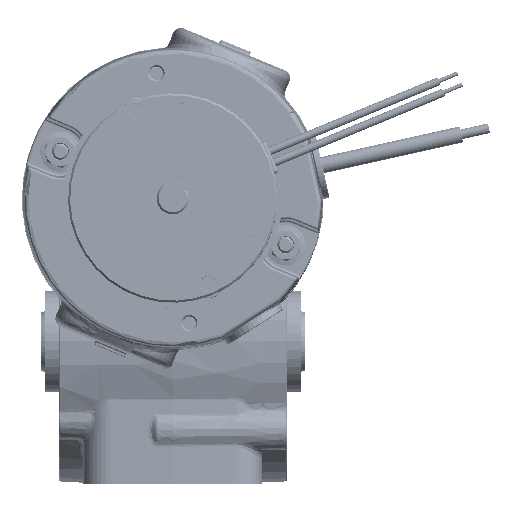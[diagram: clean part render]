
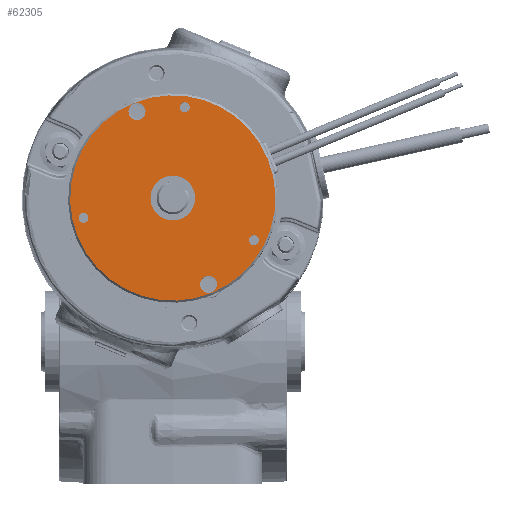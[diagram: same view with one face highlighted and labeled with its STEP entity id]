
A CAD part, top view. The second image highlights one B-rep face of the part: STEP entity #62305.
In plain terms, the highlighted planar face has unit normal (0, 0, 1).
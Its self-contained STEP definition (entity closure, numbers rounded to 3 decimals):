
#3320 = AXIS2_PLACEMENT_3D ( 'NONE', #184137, #163848, #82497 ) ;
#4924 = CARTESIAN_POINT ( 'NONE',  ( 4.546, 9.263, 215.598 ) ) ;
#6309 = EDGE_CURVE ( 'NONE', #34288, #89136, #81950, .T. ) ;
#7683 = FACE_BOUND ( 'NONE', #115814, .T. ) ;
#18636 = DIRECTION ( 'NONE',  ( 0., 0., -1. ) ) ;
#26585 = EDGE_LOOP ( 'NONE', ( #157160, #161442 ) ) ;
#26878 = AXIS2_PLACEMENT_3D ( 'NONE', #254473, #194696, #28060 ) ;
#28060 = DIRECTION ( 'NONE',  ( -0.131, -0.991, 0. ) ) ;
#28840 = CARTESIAN_POINT ( 'NONE',  ( -16.863, 8.627, 215.598 ) ) ;
#29452 = DIRECTION ( 'NONE',  ( -0.131, -0.991, 0. ) ) ;
#30964 = CIRCLE ( 'NONE', #182416, 1.229 ) ;
#34277 = ORIENTED_EDGE ( 'NONE', *, *, #6309, .T. ) ;
#34288 = VERTEX_POINT ( 'NONE', #72254 ) ;
#35805 = CARTESIAN_POINT ( 'NONE',  ( 25.222, 4.326, 215.598 ) ) ;
#42707 = DIRECTION ( 'NONE',  ( 0., 0., -1. ) ) ;
#43287 = AXIS2_PLACEMENT_3D ( 'NONE', #151064, #42707, #212056 ) ;
#43333 = EDGE_CURVE ( 'NONE', #213933, #268090, #146353, .T. ) ;
#45068 = ORIENTED_EDGE ( 'NONE', *, *, #96620, .T. ) ;
#47877 = DIRECTION ( 'NONE',  ( -0.131, -0.991, 0. ) ) ;
#50260 = EDGE_CURVE ( 'NONE', #89136, #34288, #125460, .T. ) ;
#53343 = CIRCLE ( 'NONE', #256826, 2.1 ) ;
#57068 = CIRCLE ( 'NONE', #26878, 5.5 ) ;
#62305 = ADVANCED_FACE ( 'NONE', ( #108103, #232875, #253225, #7683, #110765, #173111, #71527 ), #215166, .F. ) ;
#68418 = VERTEX_POINT ( 'NONE', #203838 ) ;
#70509 = VERTEX_POINT ( 'NONE', #149259 ) ;
#71222 = ORIENTED_EDGE ( 'NONE', *, *, #43333, .T. ) ;
#71527 = FACE_OUTER_BOUND ( 'NONE', #179768, .T. ) ;
#72254 = CARTESIAN_POINT ( 'NONE',  ( -16.542, 11.065, 215.598 ) ) ;
#72798 = CIRCLE ( 'NONE', #142038, 2.1 ) ;
#73212 = DIRECTION ( 'NONE',  ( 0., 0., -1. ) ) ;
#73980 = ORIENTED_EDGE ( 'NONE', *, *, #233556, .T. ) ;
#76823 = CARTESIAN_POINT ( 'NONE',  ( 13.792, -8.616, 215.598 ) ) ;
#78410 = ORIENTED_EDGE ( 'NONE', *, *, #178761, .T. ) ;
#79713 = CARTESIAN_POINT ( 'NONE',  ( -16.702, 9.846, 215.598 ) ) ;
#80675 = EDGE_CURVE ( 'NONE', #174009, #216102, #72798, .T. ) ;
#81950 = CIRCLE ( 'NONE', #190262, 1.23 ) ;
#82497 = DIRECTION ( 'NONE',  ( -0.131, -0.991, 0. ) ) ;
#84090 = CARTESIAN_POINT ( 'NONE',  ( 8.56, 39.75, 215.598 ) ) ;
#85835 = DIRECTION ( 'NONE',  ( 0., 0., -1. ) ) ;
#88277 = DIRECTION ( 'NONE',  ( -0.131, -0.991, 0. ) ) ;
#89108 = DIRECTION ( 'NONE',  ( 0., 0., -1. ) ) ;
#89136 = VERTEX_POINT ( 'NONE', #28840 ) ;
#89337 = EDGE_LOOP ( 'NONE', ( #240905, #247890 ) ) ;
#89385 = ORIENTED_EDGE ( 'NONE', *, *, #149102, .T. ) ;
#94524 = AXIS2_PLACEMENT_3D ( 'NONE', #229580, #85835, #47877 ) ;
#96620 = EDGE_CURVE ( 'NONE', #200684, #263146, #170088, .T. ) ;
#99541 = AXIS2_PLACEMENT_3D ( 'NONE', #207844, #119821, #164551 ) ;
#102478 = DIRECTION ( 'NONE',  ( 0., 0., 1. ) ) ;
#106395 = DIRECTION ( 'NONE',  ( -0.131, -0.991, 0. ) ) ;
#108103 = FACE_BOUND ( 'NONE', #124730, .T. ) ;
#108984 = CARTESIAN_POINT ( 'NONE',  ( 8.201, 37.023, 215.598 ) ) ;
#110765 = FACE_BOUND ( 'NONE', #254564, .T. ) ;
#115814 = EDGE_LOOP ( 'NONE', ( #246017, #34277 ) ) ;
#119821 = DIRECTION ( 'NONE',  ( 0., 0., -1. ) ) ;
#120205 = CIRCLE ( 'NONE', #3320, 25.25 ) ;
#124730 = EDGE_LOOP ( 'NONE', ( #178150, #78410 ) ) ;
#125460 = CIRCLE ( 'NONE', #99541, 1.23 ) ;
#126306 = CARTESIAN_POINT ( 'NONE',  ( 14.066, -6.534, 215.598 ) ) ;
#128051 = DIRECTION ( 'NONE',  ( 0., 0., -1. ) ) ;
#128476 = CARTESIAN_POINT ( 'NONE',  ( 4.546, 9.263, 215.598 ) ) ;
#132225 = CARTESIAN_POINT ( 'NONE',  ( 8.201, 37.023, 215.598 ) ) ;
#135808 = CARTESIAN_POINT ( 'NONE',  ( -3.537, 35.965, 215.598 ) ) ;
#137056 = EDGE_CURVE ( 'NONE', #244787, #154099, #144146, .T. ) ;
#137943 = VERTEX_POINT ( 'NONE', #148261 ) ;
#138204 = DIRECTION ( 'NONE',  ( -0.131, -0.991, 0. ) ) ;
#140207 = CIRCLE ( 'NONE', #248394, 1.229 ) ;
#140275 = CARTESIAN_POINT ( 'NONE',  ( 25.062, 3.107, 215.598 ) ) ;
#142038 = AXIS2_PLACEMENT_3D ( 'NONE', #126306, #150660, #88277 ) ;
#142234 = CARTESIAN_POINT ( 'NONE',  ( 25.383, 5.545, 215.598 ) ) ;
#142968 = AXIS2_PLACEMENT_3D ( 'NONE', #181882, #200903, #259410 ) ;
#144146 = CIRCLE ( 'NONE', #217648, 1.229 ) ;
#144353 = DIRECTION ( 'NONE',  ( 0., 0., -1. ) ) ;
#144516 = CARTESIAN_POINT ( 'NONE',  ( 5.264, 14.716, 215.598 ) ) ;
#146353 = CIRCLE ( 'NONE', #189643, 25.25 ) ;
#148261 = CARTESIAN_POINT ( 'NONE',  ( -3.811, 33.883, 215.598 ) ) ;
#148461 = ORIENTED_EDGE ( 'NONE', *, *, #195236, .T. ) ;
#148506 = DIRECTION ( 'NONE',  ( -0.131, -0.991, 0. ) ) ;
#149102 = EDGE_CURVE ( 'NONE', #154099, #244787, #140207, .T. ) ;
#149259 = CARTESIAN_POINT ( 'NONE',  ( -3.263, 38.047, 215.598 ) ) ;
#150660 = DIRECTION ( 'NONE',  ( 0., 0., -1. ) ) ;
#151064 = CARTESIAN_POINT ( 'NONE',  ( 5.264, 14.716, 215.598 ) ) ;
#154099 = VERTEX_POINT ( 'NONE', #142234 ) ;
#156427 = DIRECTION ( 'NONE',  ( 0., 0., -1. ) ) ;
#157160 = ORIENTED_EDGE ( 'NONE', *, *, #219943, .T. ) ;
#161442 = ORIENTED_EDGE ( 'NONE', *, *, #80675, .T. ) ;
#163848 = DIRECTION ( 'NONE',  ( 0., 0., 1. ) ) ;
#163920 = AXIS2_PLACEMENT_3D ( 'NONE', #128476, #89108, #29452 ) ;
#164551 = DIRECTION ( 'NONE',  ( -0.131, -0.991, 0. ) ) ;
#164907 = CARTESIAN_POINT ( 'NONE',  ( 8.362, 38.242, 215.598 ) ) ;
#170088 = CIRCLE ( 'NONE', #204490, 1.229 ) ;
#173111 = FACE_BOUND ( 'NONE', #89337, .T. ) ;
#174009 = VERTEX_POINT ( 'NONE', #267527 ) ;
#178150 = ORIENTED_EDGE ( 'NONE', *, *, #250463, .T. ) ;
#178761 = EDGE_CURVE ( 'NONE', #70509, #137943, #211410, .T. ) ;
#179768 = EDGE_LOOP ( 'NONE', ( #71222, #148461 ) ) ;
#181882 = CARTESIAN_POINT ( 'NONE',  ( 14.066, -6.534, 215.598 ) ) ;
#182416 = AXIS2_PLACEMENT_3D ( 'NONE', #132225, #214906, #239322 ) ;
#184137 = CARTESIAN_POINT ( 'NONE',  ( 5.264, 14.716, 215.598 ) ) ;
#185755 = ORIENTED_EDGE ( 'NONE', *, *, #137056, .T. ) ;
#188409 = EDGE_LOOP ( 'NONE', ( #185755, #89385 ) ) ;
#189643 = AXIS2_PLACEMENT_3D ( 'NONE', #144516, #102478, #148506 ) ;
#190262 = AXIS2_PLACEMENT_3D ( 'NONE', #79713, #18636, #261448 ) ;
#190538 = CIRCLE ( 'NONE', #142968, 2.1 ) ;
#191432 = VERTEX_POINT ( 'NONE', #4924 ) ;
#194696 = DIRECTION ( 'NONE',  ( 0., 0., -1. ) ) ;
#195236 = EDGE_CURVE ( 'NONE', #268090, #213933, #120205, .T. ) ;
#200684 = VERTEX_POINT ( 'NONE', #164907 ) ;
#200903 = DIRECTION ( 'NONE',  ( 0., 0., -1. ) ) ;
#203838 = CARTESIAN_POINT ( 'NONE',  ( 5.982, 20.168, 215.598 ) ) ;
#204490 = AXIS2_PLACEMENT_3D ( 'NONE', #108984, #144353, #227040 ) ;
#207700 = CIRCLE ( 'NONE', #43287, 5.5 ) ;
#207844 = CARTESIAN_POINT ( 'NONE',  ( -16.702, 9.846, 215.598 ) ) ;
#210822 = CARTESIAN_POINT ( 'NONE',  ( 8.041, 35.804, 215.598 ) ) ;
#211410 = CIRCLE ( 'NONE', #94524, 2.1 ) ;
#212056 = DIRECTION ( 'NONE',  ( -0.131, -0.991, 0. ) ) ;
#213933 = VERTEX_POINT ( 'NONE', #218022 ) ;
#214906 = DIRECTION ( 'NONE',  ( 0., 0., -1. ) ) ;
#215166 = PLANE ( 'NONE',  #163920 ) ;
#216102 = VERTEX_POINT ( 'NONE', #76823 ) ;
#217648 = AXIS2_PLACEMENT_3D ( 'NONE', #256326, #73212, #138204 ) ;
#218022 = CARTESIAN_POINT ( 'NONE',  ( 1.969, -10.318, 215.598 ) ) ;
#219943 = EDGE_CURVE ( 'NONE', #216102, #174009, #190538, .T. ) ;
#227040 = DIRECTION ( 'NONE',  ( -0.131, -0.991, 0. ) ) ;
#229580 = CARTESIAN_POINT ( 'NONE',  ( -3.537, 35.965, 215.598 ) ) ;
#232875 = FACE_BOUND ( 'NONE', #26585, .T. ) ;
#233556 = EDGE_CURVE ( 'NONE', #263146, #200684, #30964, .T. ) ;
#235055 = EDGE_CURVE ( 'NONE', #68418, #191432, #57068, .T. ) ;
#239168 = DIRECTION ( 'NONE',  ( -0.131, -0.991, 0. ) ) ;
#239322 = DIRECTION ( 'NONE',  ( -0.131, -0.991, 0. ) ) ;
#240905 = ORIENTED_EDGE ( 'NONE', *, *, #256694, .T. ) ;
#244787 = VERTEX_POINT ( 'NONE', #140275 ) ;
#246017 = ORIENTED_EDGE ( 'NONE', *, *, #50260, .T. ) ;
#247890 = ORIENTED_EDGE ( 'NONE', *, *, #235055, .T. ) ;
#248394 = AXIS2_PLACEMENT_3D ( 'NONE', #35805, #156427, #239168 ) ;
#250463 = EDGE_CURVE ( 'NONE', #137943, #70509, #53343, .T. ) ;
#253225 = FACE_BOUND ( 'NONE', #188409, .T. ) ;
#254473 = CARTESIAN_POINT ( 'NONE',  ( 5.264, 14.716, 215.598 ) ) ;
#254564 = EDGE_LOOP ( 'NONE', ( #73980, #45068 ) ) ;
#256326 = CARTESIAN_POINT ( 'NONE',  ( 25.222, 4.326, 215.598 ) ) ;
#256694 = EDGE_CURVE ( 'NONE', #191432, #68418, #207700, .T. ) ;
#256826 = AXIS2_PLACEMENT_3D ( 'NONE', #135808, #128051, #106395 ) ;
#259410 = DIRECTION ( 'NONE',  ( -0.131, -0.991, 0. ) ) ;
#261448 = DIRECTION ( 'NONE',  ( -0.131, -0.991, 0. ) ) ;
#263146 = VERTEX_POINT ( 'NONE', #210822 ) ;
#267527 = CARTESIAN_POINT ( 'NONE',  ( 14.34, -4.452, 215.598 ) ) ;
#268090 = VERTEX_POINT ( 'NONE', #84090 ) ;
